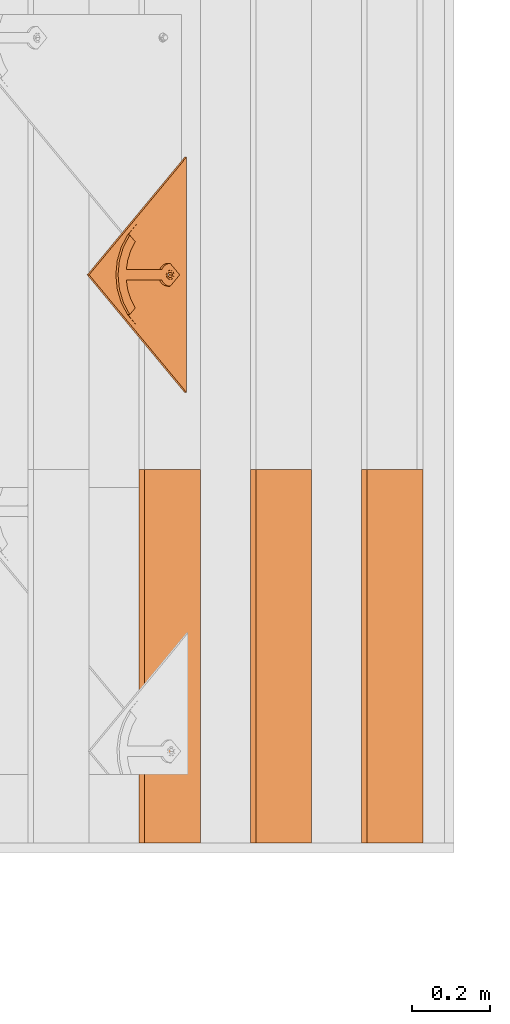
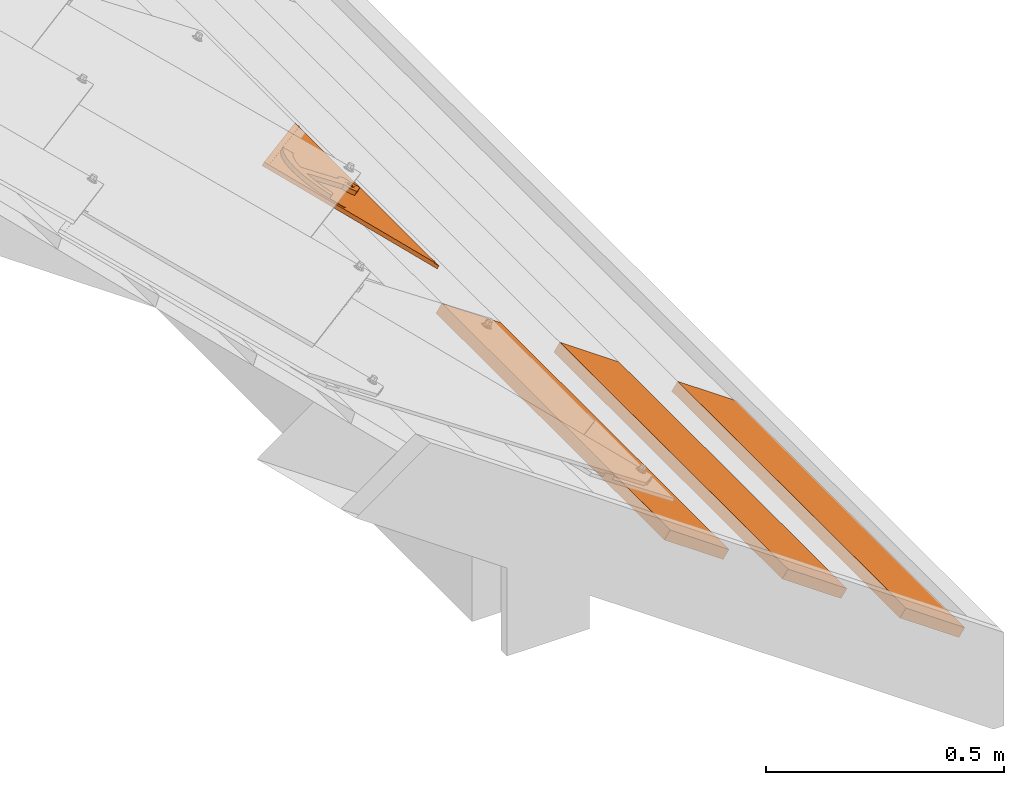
# One storey, part 112 of 133: 4 proxies, 1 element without a shape of its own.
"""IFC2X3 building model written with IfcOpenShell, lengths in millimetres."""

from ifc_helpers import new_model, entity, si_unit, converted_unit, derived_unit, direction, frame, frame_2d, origin, place, context, subcontext, project, spatial, rectangle, extrude, faceted_brep, source, transform, mapped, material, material_list, type_object, type_shapes, element, aggregate, save


model = new_model("IFC2X3")

# Units and contexts
model_context = context("Model", 3, precision=0.01, world=origin(), true_north=direction((6.12303176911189e-17, 1.0)))
body_context = subcontext(model_context, "Body", "Model", "MODEL_VIEW")
ifc_project = project(units=[si_unit("LENGTHUNIT", "METRE", prefix="MILLI"), si_unit("AREAUNIT", "SQUARE_METRE"), si_unit("VOLUMEUNIT", "CUBIC_METRE"), converted_unit("PLANEANGLEUNIT", "DEGREE", entity("IfcRatioMeasure", 0.0174532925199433), si_unit("PLANEANGLEUNIT", "RADIAN"), dimensions=[0, 0, 0, 0, 0, 0, 0]), si_unit("MASSUNIT", "GRAM", prefix="KILO"), derived_unit("MASSDENSITYUNIT", [(si_unit("MASSUNIT", "GRAM", prefix="KILO"), 1), (si_unit("LENGTHUNIT", "METRE"), -3)]), si_unit("TIMEUNIT", "SECOND"), si_unit("FREQUENCYUNIT", "HERTZ"), si_unit("THERMODYNAMICTEMPERATUREUNIT", "DEGREE_CELSIUS"), derived_unit("THERMALTRANSMITTANCEUNIT", [(si_unit("MASSUNIT", "GRAM", prefix="KILO"), 1), (si_unit("THERMODYNAMICTEMPERATUREUNIT", "KELVIN"), -1), (si_unit("TIMEUNIT", "SECOND"), -3)]), derived_unit("VOLUMETRICFLOWRATEUNIT", [(si_unit("LENGTHUNIT", "METRE"), 3), (si_unit("TIMEUNIT", "SECOND"), -1)]), si_unit("ELECTRICCURRENTUNIT", "AMPERE"), si_unit("ELECTRICVOLTAGEUNIT", "VOLT"), si_unit("POWERUNIT", "WATT"), si_unit("FORCEUNIT", "NEWTON", prefix="KILO"), si_unit("ILLUMINANCEUNIT", "LUX"), si_unit("LUMINOUSFLUXUNIT", "LUMEN"), si_unit("LUMINOUSINTENSITYUNIT", "CANDELA"), derived_unit("USERDEFINED", [(si_unit("MASSUNIT", "GRAM", prefix="KILO"), -1), (si_unit("LENGTHUNIT", "METRE"), -2), (si_unit("TIMEUNIT", "SECOND"), 3), (si_unit("LUMINOUSFLUXUNIT", "LUMEN"), 1)]), derived_unit("LINEARVELOCITYUNIT", [(si_unit("LENGTHUNIT", "METRE"), 1), (si_unit("TIMEUNIT", "SECOND"), -1)]), si_unit("PRESSUREUNIT", "PASCAL"), derived_unit("USERDEFINED", [(si_unit("LENGTHUNIT", "METRE"), -2), (si_unit("MASSUNIT", "GRAM", prefix="KILO"), 1), (si_unit("TIMEUNIT", "SECOND"), -2)])], contexts=[model_context])

# Site, building, storey
site_placement = place(None, origin())
site = spatial("IfcSite", under=ifc_project, at=site_placement, Name="Default", CompositionType="ELEMENT")
building_placement = place(site_placement, origin())
building = spatial("IfcBuilding", under=site, at=building_placement, CompositionType="ELEMENT")
storey_placement = place(building_placement, origin())
storey = spatial("IfcBuildingStorey", under=building, at=storey_placement, Name="Level 1", CompositionType="ELEMENT", Elevation=0.0)

# Assembly, proxies
assembly_placement = place(storey_placement, origin())
assembly = element("IfcElementAssembly", 1, at=assembly_placement, inside=storey, Name="Structural Framing Assembly:Roof Construction Assembly", ObjectType="Structural Framing Assembly:Roof Construction Assembly", AssemblyPlace="NOTDEFINED", PredefinedType="USERDEFINED")
ifc_material_1 = material(Name="Wood - Generic - Wood For Showcase")
building_element_proxy_type_1 = type_object("IfcBuildingElementProxyType", Name="Structural Framing 15", PredefinedType="NOTDEFINED", material=ifc_material_1)
shared_shape_1 = source(origin(), body_context, "Body", "SweptSolid", [
    extrude(rectangle(XDim=24.9999999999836, YDim=174.344679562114, at=frame_2d((3.79252185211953e-13, 7.105427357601e-14), x_axis=(1.0, 0.0))), frame((1285.3560130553, 2967.09519417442, 2760.23940055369), z_axis=(0.0, 1.0, 0.0), x_axis=(0.573576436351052, 0.0, 0.819152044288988)), (0.0, 0.0, 1.0), 958.455607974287),
])
type_shapes(building_element_proxy_type_1, [shared_shape_1])
proxy_1_placement = place(assembly_placement, frame((3141.92561483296, -9670.0, -2200.0)))
proxy_1 = element("IfcBuildingElementProxy", 2, at=proxy_1_placement, type_object=building_element_proxy_type_1, material=ifc_material_1, Name="Structural Framing 269:Structural Framing 15", ObjectType="Structural Framing 269:Structural Framing 15", context=body_context, shape_type="MappedRepresentation", body=[
    mapped(shared_shape_1, transform((0.0, 0.0, 0.0), scale=1.0)),
])
building_element_proxy_type_2 = type_object("IfcBuildingElementProxyType", Name="Structural Framing 15", PredefinedType="NOTDEFINED", material=ifc_material_1)
shared_shape_2 = source(origin(), body_context, "Body", "SweptSolid", [
    extrude(rectangle(XDim=24.9999999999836, YDim=174.344679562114, at=frame_2d((3.79252185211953e-13, 7.105427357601e-14), x_axis=(1.0, 0.0))), frame((1285.3560130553, 2967.09519417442, 2760.23940055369), z_axis=(0.0, 1.0, 0.0), x_axis=(0.573576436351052, 0.0, 0.819152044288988)), (0.0, 0.0, 1.0), 958.455607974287),
])
type_shapes(building_element_proxy_type_2, [shared_shape_2])
proxy_2_placement = place(assembly_placement, frame((3427.55521618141, -9670.0, -2400.0)))
proxy_2 = element("IfcBuildingElementProxy", 3, at=proxy_2_placement, type_object=building_element_proxy_type_2, material=ifc_material_1, Name="Structural Framing 279:Structural Framing 15", ObjectType="Structural Framing 279:Structural Framing 15", context=body_context, shape_type="MappedRepresentation", body=[
    mapped(shared_shape_2, transform((0.0, 0.0, 0.0), scale=1.0)),
])
building_element_proxy_type_3 = type_object("IfcBuildingElementProxyType", Name="Structural Framing 15", PredefinedType="NOTDEFINED", material=ifc_material_1)
shared_shape_3 = source(origin(), body_context, "Body", "SweptSolid", [
    extrude(rectangle(XDim=24.9999999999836, YDim=174.344679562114, at=frame_2d((3.79252185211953e-13, 7.105427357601e-14), x_axis=(1.0, 0.0))), frame((1285.3560130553, 2967.09519417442, 2760.23940055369), z_axis=(0.0, 1.0, 0.0), x_axis=(0.573576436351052, 0.0, 0.819152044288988)), (0.0, 0.0, 1.0), 958.455607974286),
])
type_shapes(building_element_proxy_type_3, [shared_shape_3])
proxy_3_placement = place(assembly_placement, frame((3713.18481752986, -9670.0, -2600.0)))
proxy_3 = element("IfcBuildingElementProxy", 4, at=proxy_3_placement, type_object=building_element_proxy_type_3, material=ifc_material_1, Name="Structural Framing 289:Structural Framing 15", ObjectType="Structural Framing 289:Structural Framing 15", context=body_context, shape_type="MappedRepresentation", body=[
    mapped(shared_shape_3, transform((0.0, 0.0, 0.0), scale=1.0)),
])
aggregate(assembly, [proxy_1, proxy_2, proxy_3])

# Proxy
ifc_material_2 = material(Name="Rubber - Sunstyle - Black")
ifc_material_3 = material(Name="Glass - Sunstyle - Tainted Black")
ifc_material_list_1 = material_list([ifc_material_2, ifc_material_3])
ifc_material_list_2 = material_list([ifc_material_2, ifc_material_3])
building_element_proxy_type_4 = type_object("IfcBuildingElementProxyType", Name="Shingle Bottom Small - Black", PredefinedType="NOTDEFINED", material=ifc_material_list_2)
shared_shape_4 = source(origin(), body_context, "Body", "Brep", [
    faceted_brep([(302.08842791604, 44.9093317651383, 22.0558382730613), (302.08842791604, 49.408700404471, 21.980485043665), (293.484723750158, 48.4726030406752, 21.9961623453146), (310.692132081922, 48.4726030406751, 21.9961623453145), (308.728656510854, 53.2419006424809, 21.9162884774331), (314.255903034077, 57.0751008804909, 21.8520919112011), (308.728656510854, 60.9083011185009, 21.7878953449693), (310.692132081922, 65.6775987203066, 21.7080214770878), (302.08842791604, 64.7415013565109, 21.7236987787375), (302.08842791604, 69.2408699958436, 21.6483455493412), (293.484723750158, 65.6775987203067, 21.708021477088), (295.448199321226, 60.908301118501, 21.7878953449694), (289.920952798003, 57.0751008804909, 21.8520919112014), (295.448199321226, 53.2419006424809, 21.9162884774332), (295.448199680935, 60.6403782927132, 5.79013870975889), (302.08842791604, 64.473578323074, 5.72594214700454), (295.448199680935, 52.9739782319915, 5.91853183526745), (302.08842791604, 49.1407782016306, 5.98272839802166), (308.728656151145, 52.9739782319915, 5.91853183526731), (308.728656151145, 60.6403782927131, 5.79013870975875), (293.484723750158, 48.2046804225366, 5.99840570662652), (302.08842791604, 44.6414091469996, 6.05808163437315), (289.920952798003, 56.8071782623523, 5.85433527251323), (293.484723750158, 65.4096761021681, 5.71026483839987), (302.08842791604, 68.972947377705, 5.65058891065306), (310.692132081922, 65.409676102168, 5.71026483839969), (314.255903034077, 56.8071782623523, 5.85433527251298), (310.692132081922, 48.2046804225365, 5.99840570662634)], [[[0, 1, 2]], [[1, 0, 3]], [[3, 4, 1]], [[4, 3, 5]], [[6, 4, 5]], [[5, 7, 6]], [[7, 8, 6]], [[8, 7, 9]], [[8, 9, 10]], [[10, 11, 8]], [[12, 11, 10]], [[2, 13, 12]], [[12, 13, 11]], [[13, 2, 1]], [[8, 11, 14, 15]], [[11, 13, 16, 14]], [[13, 1, 17, 16]], [[1, 4, 18, 17]], [[4, 6, 19, 18]], [[6, 8, 15, 19]], [[20, 17, 21]], [[17, 20, 16]], [[22, 16, 20]], [[14, 16, 22]], [[23, 14, 22]], [[15, 14, 23]], [[23, 24, 15]], [[24, 25, 15]], [[19, 15, 25]], [[19, 25, 26]], [[26, 18, 19]], [[26, 27, 18]], [[17, 18, 27]], [[27, 21, 17]], [[24, 23, 10, 9]], [[10, 23, 22, 12]], [[20, 21, 0, 2]], [[20, 2, 12, 22]], [[21, 27, 3, 0]], [[3, 27, 26, 5]], [[25, 24, 9, 7]], [[25, 7, 5, 26]]]),
    faceted_brep([(587.35835892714, 0.0, 12.5593198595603), (595.843045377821, 8.4846864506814, 12.4172224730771), (595.843045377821, 8.50980419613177, 13.9170121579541), (587.35835892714, 0.0251177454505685, 14.0591095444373), (302.088750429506, 285.189618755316, 7.7831033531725), (16.8191419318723, 0.0, 12.5593198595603), (8.33445548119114, 8.48468645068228, 12.4172224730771), (302.088750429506, 302.156612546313, 7.49894842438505), (302.088750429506, 302.181730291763, 8.9987381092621), (8.33445548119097, 8.50980419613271, 13.9170121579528), (16.8191419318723, 0.0251177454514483, 14.0591095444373), (302.088750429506, 285.214736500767, 9.28289303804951)], [[[0, 1, 2, 3]], [[1, 0, 4, 5, 6, 7]], [[2, 1, 7, 8]], [[3, 2, 8, 9, 10, 11]], [[0, 3, 11, 4]], [[5, 10, 9, 6]], [[8, 7, 6, 9]], [[4, 11, 10, 5]]]),
    faceted_brep([(302.088750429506, 302.156612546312, 7.49894842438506), (305.194256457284, 68.3255429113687, 11.4150370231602), (308.088427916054, 67.1269059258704, 11.4351112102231), (302.088427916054, 68.7343756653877, 11.4081900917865), (310.573709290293, 65.2201498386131, 11.4670446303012), (298.982599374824, 68.3255429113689, 11.4150370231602), (296.088427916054, 67.1269059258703, 11.4351112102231), (293.603146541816, 65.2201498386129, 11.4670446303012), (312.480732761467, 62.7352169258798, 11.5086610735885), (604.177500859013, 0.152567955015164, 12.5567647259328), (291.696123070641, 62.7352169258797, 11.5086610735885), (0.0, 0.152567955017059, 12.5567647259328), (290.497318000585, 59.8414512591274, 11.5571244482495), (290.088427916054, 56.7360581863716, 11.6091320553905), (290.497318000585, 53.6306651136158, 11.6611396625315), (291.696123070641, 50.7368994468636, 11.7096030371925), (293.603146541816, 48.2519665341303, 11.7512194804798), (296.088427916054, 46.3452104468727, 11.7831529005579), (298.982599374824, 45.1465734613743, 11.8032270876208), (302.088427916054, 44.7377407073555, 11.8100740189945), (313.679537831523, 59.8414512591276, 11.5571244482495), (314.088427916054, 56.7360581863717, 11.6091320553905), (313.679537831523, 53.6306651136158, 11.6611396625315), (312.480732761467, 50.7368994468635, 11.7096030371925), (310.573709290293, 48.2519665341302, 11.7512194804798), (308.088427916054, 46.3452104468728, 11.7831529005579), (305.194256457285, 45.1465734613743, 11.8032270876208), (0.0, 0.0269792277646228, 5.0578163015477), (290.088427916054, 56.6104694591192, 4.11018363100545), (290.497318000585, 53.5050763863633, 4.16219123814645), (290.497318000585, 59.7158625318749, 4.05817602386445), (291.696123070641, 50.6113107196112, 4.21065461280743), (291.696123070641, 62.6096281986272, 4.00971264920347), (302.088750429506, 302.031023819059, 0.0), (293.603146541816, 48.1263778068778, 4.25227105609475), (296.088427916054, 46.2196217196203, 4.28420447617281), (298.982599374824, 45.0209847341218, 4.30427866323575), (302.088427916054, 44.612151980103, 4.31112559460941), (604.177500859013, 0.0269792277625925, 5.05781630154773), (293.603146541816, 65.0945611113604, 3.96809620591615), (296.088427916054, 67.0013171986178, 3.93616278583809), (298.982599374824, 68.1999541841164, 3.91608859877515), (302.088427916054, 68.6087869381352, 3.90924166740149), (305.194256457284, 68.1999541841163, 3.91608859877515), (308.088427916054, 67.0013171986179, 3.93616278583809), (310.573709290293, 65.0945611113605, 3.96809620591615), (312.480732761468, 62.6096281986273, 4.00971264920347), (305.194256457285, 45.0209847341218, 4.30427866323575), (308.088427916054, 46.2196217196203, 4.28420447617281), (313.679537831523, 59.7158625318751, 4.05817602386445), (314.088427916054, 56.6104694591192, 4.11018363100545), (313.679537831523, 53.5050763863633, 4.16219123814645), (312.480732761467, 50.611310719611, 4.21065461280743), (310.573709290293, 48.1263778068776, 4.25227105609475)], [[[0, 1, 2]], [[1, 0, 3]], [[0, 2, 4]], [[5, 3, 0]], [[6, 5, 0]], [[0, 7, 6]], [[8, 0, 4]], [[0, 8, 9]], [[7, 0, 10]], [[0, 11, 10]], [[12, 10, 11]], [[11, 13, 12]], [[13, 11, 14]], [[15, 14, 11]], [[11, 16, 15]], [[17, 16, 11]], [[17, 11, 18]], [[19, 18, 11]], [[19, 11, 9]], [[9, 8, 20]], [[20, 21, 9]], [[21, 22, 9]], [[22, 23, 9]], [[9, 23, 24]], [[24, 25, 9]], [[25, 26, 9]], [[9, 26, 19]], [[27, 28, 29]], [[28, 27, 30]], [[27, 29, 31]], [[32, 30, 27]], [[32, 27, 33]], [[31, 34, 27]], [[34, 35, 27]], [[35, 36, 27]], [[36, 37, 27]], [[27, 37, 38]], [[33, 39, 32]], [[40, 39, 33]], [[41, 40, 33]], [[42, 41, 33]], [[33, 43, 42]], [[43, 33, 44]], [[45, 44, 33]], [[33, 46, 45]], [[46, 33, 38]], [[38, 37, 47]], [[47, 48, 38]], [[49, 46, 38]], [[38, 50, 49]], [[50, 38, 51]], [[52, 51, 38]], [[53, 52, 38]], [[53, 38, 48]], [[11, 0, 33, 27]], [[0, 9, 38, 33]], [[13, 28, 30, 12]], [[12, 30, 32, 10]], [[6, 7, 39, 40]], [[39, 7, 10, 32]], [[5, 6, 40, 41]], [[5, 41, 42, 3]], [[3, 42, 43, 1]], [[1, 43, 44, 2]], [[8, 4, 45, 46]], [[45, 4, 2, 44]], [[20, 8, 46, 49]], [[20, 49, 50, 21]], [[21, 50, 51, 22]], [[22, 51, 52, 23]], [[25, 24, 53, 48]], [[53, 24, 23, 52]], [[26, 25, 48, 47]], [[26, 47, 37, 19]], [[19, 37, 36, 18]], [[18, 36, 35, 17]], [[15, 16, 34, 31]], [[34, 16, 17, 35]], [[14, 15, 31, 29]], [[14, 29, 28, 13]], [[9, 11, 27, 38]]]),
    faceted_brep([(190.819384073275, 138.646056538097, 12.7376939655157), (217.144031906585, 164.967013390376, 12.2968834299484), (200.060856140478, 182.04779392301, 12.0108228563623), (193.80845410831, 176.686146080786, 12.100617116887), (187.837458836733, 171.012871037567, 12.1956303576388), (173.141714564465, 156.321247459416, 12.4416784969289), (431.035141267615, 156.321247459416, 12.4416784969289), (416.339396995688, 171.012871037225, 12.1956303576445), (410.36840172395, 176.686146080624, 12.1006171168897), (404.115999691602, 182.047793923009, 12.0108228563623), (387.031626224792, 164.968210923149, 12.2968633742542), (413.357471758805, 138.646056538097, 12.7376939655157), (296.088427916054, 67.294357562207, 21.4337091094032), (288.788427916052, 83.1076295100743, 21.1688761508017), (283.384321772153, 79.569581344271, 21.2281296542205), (293.603146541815, 65.3876014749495, 21.4656425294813), (298.982599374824, 68.4929945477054, 21.4136349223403), (302.088427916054, 68.9018273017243, 21.4067879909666), (315.388427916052, 83.107629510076, 21.1688761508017), (305.194256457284, 68.4929945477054, 21.4136349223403), (308.088427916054, 67.2943575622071, 21.4337091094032), (320.792534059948, 79.5695813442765, 21.2281296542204), (310.573709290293, 65.3876014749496, 21.4656425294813), (325.293078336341, 74.9365758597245, 21.3057209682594), (312.480732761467, 62.9026685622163, 21.5072589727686), (328.672647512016, 69.4324252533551, 21.3979017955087), (313.679537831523, 60.0089028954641, 21.5557223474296), (330.767980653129, 63.323025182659, 21.500219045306), (314.088427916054, 56.9035098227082, 21.6077299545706), (331.477855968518, 56.9035098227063, 21.6077299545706), (313.679537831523, 53.7981167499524, 21.6597375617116), (312.480732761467, 50.9043510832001, 21.7082009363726), (310.573709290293, 48.4194181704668, 21.7498173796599), (302.08842791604, 27.5182024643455, 22.0998607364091), (308.088427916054, 46.5126620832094, 21.7817507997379), (305.194256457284, 45.314025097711, 21.8018249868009), (302.088427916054, 44.9051923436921, 21.8086719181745), (298.982599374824, 45.314025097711, 21.8018249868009), (296.088427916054, 46.5126620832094, 21.7817507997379), (293.603146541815, 48.4194181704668, 21.7498173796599), (272.69899986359, 56.903509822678, 21.6077299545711), (291.696123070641, 50.9043510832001, 21.7082009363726), (290.497318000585, 53.7981167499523, 21.6597375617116), (290.088427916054, 56.9035098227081, 21.6077299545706), (273.408875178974, 63.3230251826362, 21.5002190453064), (290.497318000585, 60.008902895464, 21.5557223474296), (275.504208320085, 69.4324252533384, 21.397901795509), (291.696123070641, 62.9026685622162, 21.5072589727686), (278.883777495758, 74.9365758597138, 21.3057209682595), (288.788427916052, 192.984512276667, 19.3287117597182), (315.388427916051, 192.984512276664, 19.3287117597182), (302.088427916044, 218.456125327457, 18.9021256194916), (338.579268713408, 214.282159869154, 18.9720291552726), (340.858170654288, 188.169632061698, 19.4093490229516), (373.184513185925, 201.975945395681, 19.1781276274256), (365.012761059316, 178.765998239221, 19.5668364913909), (404.115999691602, 182.173382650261, 19.5097712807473), (387.032823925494, 165.092602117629, 19.7958318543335), (265.59758711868, 214.28215986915, 18.9720291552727), (263.318685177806, 188.169632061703, 19.4093490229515), (230.992342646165, 201.975945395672, 19.1781276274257), (239.164094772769, 178.765998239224, 19.5668364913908), (200.06085614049, 182.173382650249, 19.5097712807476), (217.144031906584, 165.092602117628, 19.7958318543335), (302.08842791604, 27.3507508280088, 12.1012628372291), (302.088427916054, 44.7377407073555, 11.8100740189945), (305.194256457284, 45.1465734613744, 11.8032270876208), (298.982599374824, 45.1465734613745, 11.8032270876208), (308.088427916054, 46.3452104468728, 11.7831529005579), (310.573709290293, 48.2519665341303, 11.7512194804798), (331.477855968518, 56.7360581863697, 11.6091320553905), (296.088427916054, 46.3452104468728, 11.7831529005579), (293.603146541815, 48.2519665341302, 11.7512194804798), (272.69899986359, 56.7360581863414, 11.609132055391), (291.696123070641, 50.7368994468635, 11.7096030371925), (290.497318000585, 53.6306651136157, 11.6611396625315), (290.088427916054, 56.7360581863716, 11.6091320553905), (273.408875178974, 63.1555735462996, 11.5016211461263), (290.497318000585, 59.8414512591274, 11.5571244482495), (275.504208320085, 69.2649736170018, 11.3993038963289), (291.696123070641, 62.7352169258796, 11.5086610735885), (278.883777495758, 74.7691242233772, 11.3071230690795), (293.603146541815, 65.2201498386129, 11.4670446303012), (283.384321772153, 79.4021297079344, 11.2295317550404), (296.088427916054, 67.1269059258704, 11.4351112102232), (288.788427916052, 82.9401778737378, 11.1702782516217), (298.982599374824, 68.3255429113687, 11.4150370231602), (302.088427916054, 68.7343756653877, 11.4081900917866), (315.388427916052, 82.9401778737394, 11.1702782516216), (288.788427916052, 192.81706064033, 9.33011386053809), (315.388427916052, 192.817060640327, 9.33011386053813), (302.088427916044, 218.28867369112, 8.90352772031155), (265.59758711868, 214.114708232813, 8.97343125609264), (263.318685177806, 188.002180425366, 9.41075112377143), (230.992342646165, 201.808493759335, 9.17952972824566), (239.164094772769, 178.598546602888, 9.56823859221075), (200.06085614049, 182.005931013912, 9.51117338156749), (217.145229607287, 164.926348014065, 9.79721389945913), (193.80845410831, 176.644283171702, 9.60096764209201), (187.837458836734, 170.971008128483, 9.69598088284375), (190.819384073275, 138.604193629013, 10.2380444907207), (173.141714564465, 156.279384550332, 9.94202902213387), (338.579268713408, 214.114708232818, 8.97343125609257), (340.858170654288, 188.002180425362, 9.41075112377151), (373.184513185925, 201.808493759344, 9.17952972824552), (365.012761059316, 178.598546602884, 9.5682385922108), (404.115999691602, 182.005931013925, 9.51117338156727), (387.032823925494, 164.925150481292, 9.79723395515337), (410.36840172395, 176.64428317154, 9.60096764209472), (416.339396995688, 170.971008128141, 9.69598088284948), (413.357471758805, 138.604193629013, 10.2380444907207), (431.035141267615, 156.279384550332, 9.94202902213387), (305.194256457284, 68.3255429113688, 11.4150370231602), (308.088427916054, 67.1269059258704, 11.4351112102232), (320.792534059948, 79.4021297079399, 11.2295317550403), (310.573709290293, 65.220149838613, 11.4670446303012), (325.293078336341, 74.7691242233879, 11.3071230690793), (312.480732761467, 62.7352169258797, 11.5086610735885), (328.672647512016, 69.2649736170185, 11.3993038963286), (313.679537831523, 59.8414512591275, 11.5571244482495), (330.767980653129, 63.1555735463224, 11.5016211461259), (314.088427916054, 56.7360581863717, 11.6091320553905), (312.480732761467, 50.7368994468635, 11.7096030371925), (313.679537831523, 53.6306651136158, 11.6611396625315)], [[[0, 1, 2, 3, 4, 5]], [[6, 7, 8, 9, 10, 11]], [[12, 13, 14]], [[12, 14, 15]], [[16, 13, 12]], [[17, 13, 16]], [[18, 13, 17]], [[17, 19, 18]], [[19, 20, 18]], [[20, 21, 18]], [[21, 20, 22]], [[21, 22, 23]], [[24, 23, 22]], [[23, 24, 25]], [[24, 26, 25]], [[27, 25, 26]], [[26, 28, 27]], [[29, 27, 28]], [[28, 30, 29]], [[30, 31, 29]], [[29, 31, 32]], [[32, 33, 29]], [[32, 34, 33]], [[35, 33, 34]], [[36, 33, 35]], [[33, 36, 37]], [[38, 33, 37]], [[38, 39, 33]], [[40, 33, 39]], [[41, 40, 39]], [[41, 42, 40]], [[42, 43, 40]], [[43, 44, 40]], [[45, 44, 43]], [[45, 46, 44]], [[45, 47, 46]], [[48, 46, 47]], [[48, 47, 15]], [[48, 15, 14]], [[18, 49, 13]], [[50, 49, 18]], [[51, 49, 50]], [[50, 52, 51]], [[50, 53, 52]], [[52, 53, 54]], [[53, 55, 54]], [[56, 54, 55]], [[57, 56, 55]], [[58, 49, 51]], [[49, 58, 59]], [[60, 59, 58]], [[60, 61, 59]], [[61, 60, 62]], [[62, 63, 61]], [[64, 65, 66]], [[65, 64, 67]], [[64, 66, 68]], [[68, 69, 64]], [[64, 69, 70]], [[71, 67, 64]], [[71, 64, 72]], [[72, 64, 73]], [[73, 74, 72]], [[74, 73, 75]], [[75, 73, 76]], [[77, 76, 73]], [[76, 77, 78]], [[78, 77, 79]], [[80, 78, 79]], [[81, 80, 79]], [[82, 80, 81]], [[83, 82, 81]], [[83, 84, 82]], [[85, 84, 83]], [[85, 86, 84]], [[87, 86, 85]], [[88, 87, 85]], [[89, 88, 85]], [[88, 89, 90]], [[89, 91, 90]], [[91, 89, 92]], [[93, 92, 89]], [[92, 93, 94]], [[95, 94, 93]], [[96, 94, 95]], [[95, 97, 96]], [[97, 98, 96]], [[98, 97, 99]], [[97, 100, 99]], [[99, 100, 101]], [[90, 91, 102]], [[103, 90, 102]], [[103, 102, 104]], [[105, 103, 104]], [[106, 105, 104]], [[107, 105, 106]], [[106, 108, 107]], [[109, 107, 108]], [[110, 107, 109]], [[109, 111, 110]], [[112, 87, 88]], [[113, 112, 88]], [[114, 113, 88]], [[115, 113, 114]], [[115, 114, 116]], [[116, 117, 115]], [[117, 116, 118]], [[118, 119, 117]], [[120, 119, 118]], [[121, 120, 70]], [[120, 121, 119]], [[70, 69, 122]], [[122, 123, 70]], [[123, 121, 70]], [[13, 49, 89, 85]], [[14, 13, 85, 83]], [[48, 14, 83, 81]], [[81, 79, 46, 48]], [[44, 46, 79, 77]], [[40, 44, 77, 73]], [[33, 40, 73, 64]], [[0, 5, 101, 100]], [[29, 33, 64, 70]], [[6, 11, 110, 111]], [[27, 29, 70, 120]], [[25, 27, 120, 118]], [[118, 116, 23, 25]], [[21, 23, 116, 114]], [[18, 21, 114, 88]], [[50, 18, 88, 90]], [[9, 106, 104, 54, 56]], [[52, 54, 104, 102]], [[51, 52, 102, 91]], [[58, 51, 91, 92]], [[94, 96, 2, 62, 60]], [[60, 58, 92, 94]], [[43, 76, 78, 45]], [[45, 78, 80, 47]], [[12, 15, 82, 84]], [[80, 82, 15, 47]], [[16, 12, 84, 86]], [[87, 17, 16, 86]], [[19, 112, 113, 20]], [[20, 113, 115, 22]], [[26, 24, 117, 119]], [[115, 117, 24, 22]], [[28, 26, 119, 121]], [[19, 17, 87, 112]], [[28, 121, 123, 30]], [[30, 123, 122, 31]], [[34, 32, 69, 68]], [[122, 69, 32, 31]], [[35, 34, 68, 66]], [[65, 36, 35, 66]], [[37, 67, 71, 38]], [[38, 71, 72, 39]], [[42, 41, 74, 75]], [[72, 74, 41, 39]], [[43, 42, 75, 76]], [[37, 36, 65, 67]], [[7, 6, 111, 109]], [[7, 109, 108, 8]], [[108, 106, 9, 8]], [[11, 10, 107, 110]], [[1, 0, 100, 97]], [[2, 96, 98, 3]], [[98, 99, 4, 3]], [[5, 4, 99, 101]], [[63, 62, 2, 1]], [[56, 57, 10]], [[10, 9, 56]], [[1, 95, 61, 63]], [[1, 97, 95]], [[93, 89, 49, 59]], [[95, 93, 59, 61]], [[90, 103, 53, 50]], [[103, 105, 55, 53]], [[10, 57, 55]], [[107, 10, 105]], [[55, 105, 10]]]),
])
type_shapes(building_element_proxy_type_4, [shared_shape_4])
proxy_4_placement = place(storey_placement, frame((4462.8935318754, -5547.05308792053, 548.443706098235), z_axis=(0.573576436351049, 0.0, 0.81915204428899), x_axis=(0.0, 1.0, 0.0)))
element("IfcBuildingElementProxy", 5, at=proxy_4_placement, inside=storey, type_object=building_element_proxy_type_4, material=ifc_material_list_1, Name="Roofing_Panels_SunStyle_Tile_Shingle-Bottom-Small:Shingle Bottom Small - Black", ObjectType="Roofing_Panels_SunStyle_Tile_Shingle-Bottom-Small:Shingle Bottom Small - Black", context=body_context, shape_type="MappedRepresentation", body=[
    mapped(shared_shape_4, transform((0.0, 0.0, 0.0), scale=1.0)),
])

save(model, "model.ifc")
